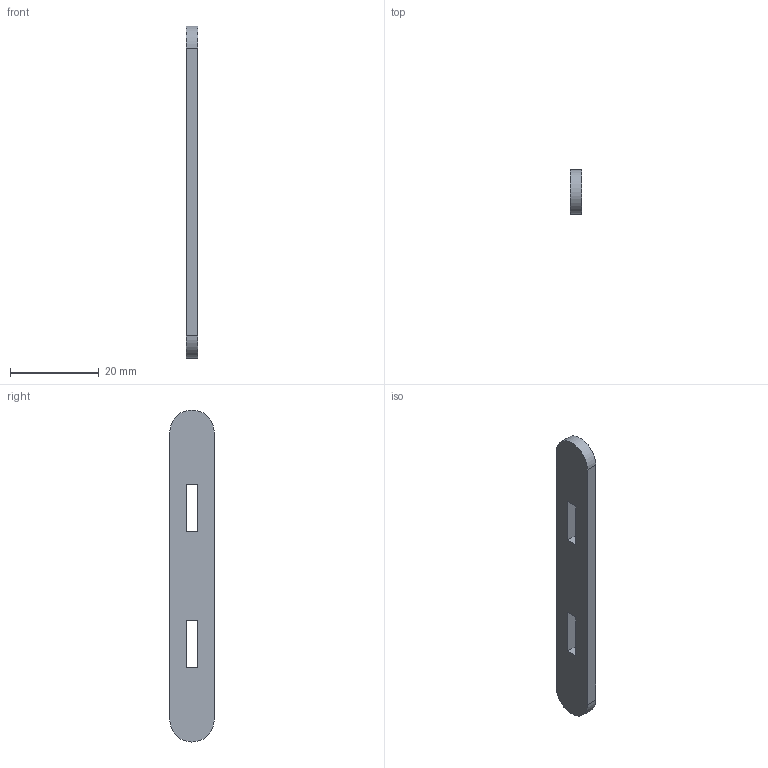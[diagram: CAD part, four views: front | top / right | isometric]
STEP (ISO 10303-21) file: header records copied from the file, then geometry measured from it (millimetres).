
FILE_DESCRIPTION(/* description */ ('STEP AP242 Edition 2','CAx-IF Rec.Pracs.---Representation and Presentation of Product Manufacturing Information (PMI)---4.0---2014-10-13','CAx-IF Rec.Pracs.---3D Tessellated Geometry---0.4---2014-09-14','2;1','CAx-IF Rec.Pracs.---User Defined Attributes---1.5---2016-08-15'),/* implementation_level */ '2;1');
FILE_NAME(/* name */ 'FlexibleBoxPartStudio - Slot',/* time_stamp */ '2026-02-11T15:49:31Z',/* author */ (''),/* organization */ (''),/* preprocessor_version */ 'ST-DEVELOPER v20',/* originating_system */ 'ONSHAPE BY PTC INC, 1.210',/* authorisation */ ' ');
FILE_SCHEMA (('AP242_MANAGED_MODEL_BASED_3D_ENGINEERING_MIM_LF { 1 0 10303 442 3 1 4 }'));
Length unit declared in the file: metre
Products named in the file (1): Slot
Bounding box: 2.7 x 10 x 75 mm (x, y, z)
Volume: 1816.8 mm3; surface area: 1925.3 mm2
Topology: 1 solids, 1 shells, 14 faces, 36 edges, 24 vertices
Faces by surface type: plane 12, cylinder 2
Entity records: 454 total; most frequent: CARTESIAN_POINT 75, ORIENTED_EDGE 72, DIRECTION 70, EDGE_CURVE 36, LINE 32, VECTOR 32, VERTEX_POINT 24, AXIS2_PLACEMENT_3D 19
